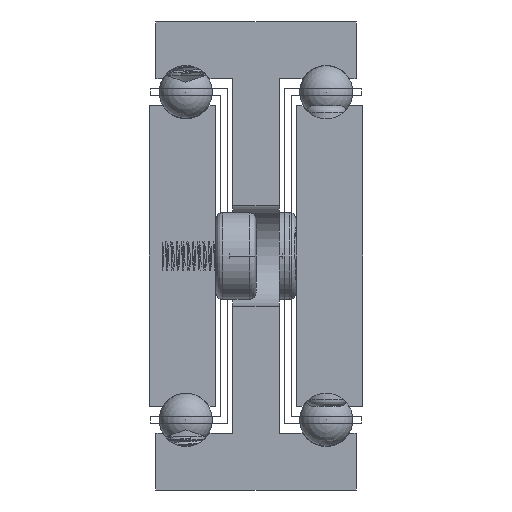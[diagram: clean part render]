
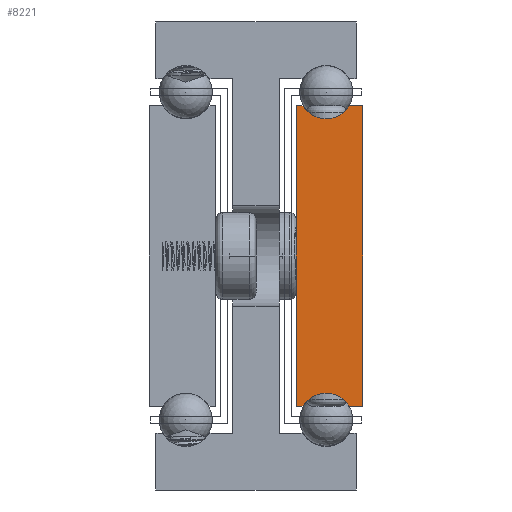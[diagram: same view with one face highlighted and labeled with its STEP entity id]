
A CAD part, front view. The second image highlights one B-rep face of the part: STEP entity #8221.
In plain terms, the highlighted planar face has unit normal (0, -1, 0).
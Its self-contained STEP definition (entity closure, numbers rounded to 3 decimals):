
#686=CIRCLE('',#8780,4.);
#688=CIRCLE('',#8786,4.);
#1057=FACE_OUTER_BOUND('',#1553,.T.);
#1553=EDGE_LOOP('',(#6448,#6449,#6450,#6451,#6452,#6453,#6454,#6455));
#2204=LINE('',#24742,#3076);
#2208=LINE('',#24750,#3080);
#2211=LINE('',#24756,#3083);
#2215=LINE('',#24768,#3087);
#2218=LINE('',#24774,#3090);
#2221=LINE('',#24780,#3093);
#3076=VECTOR('',#9798,1.);
#3080=VECTOR('',#9804,1.);
#3083=VECTOR('',#9809,1.);
#3087=VECTOR('',#9821,1.);
#3090=VECTOR('',#9826,1.);
#3093=VECTOR('',#9831,1.);
#3964=VERTEX_POINT('',#24740);
#3965=VERTEX_POINT('',#24741);
#3968=VERTEX_POINT('',#24749);
#3970=VERTEX_POINT('',#24755);
#3972=VERTEX_POINT('',#24761);
#3974=VERTEX_POINT('',#24767);
#3976=VERTEX_POINT('',#24773);
#3978=VERTEX_POINT('',#24779);
#4962=EDGE_CURVE('',#3964,#3965,#2204,.T.);
#4966=EDGE_CURVE('',#3968,#3964,#2208,.T.);
#4969=EDGE_CURVE('',#3970,#3968,#2211,.T.);
#4972=EDGE_CURVE('',#3972,#3970,#686,.T.);
#4975=EDGE_CURVE('',#3974,#3972,#2215,.T.);
#4978=EDGE_CURVE('',#3976,#3974,#2218,.T.);
#4981=EDGE_CURVE('',#3978,#3976,#2221,.T.);
#4984=EDGE_CURVE('',#3965,#3978,#688,.T.);
#6448=ORIENTED_EDGE('',*,*,#4984,.F.);
#6449=ORIENTED_EDGE('',*,*,#4962,.F.);
#6450=ORIENTED_EDGE('',*,*,#4966,.F.);
#6451=ORIENTED_EDGE('',*,*,#4969,.F.);
#6452=ORIENTED_EDGE('',*,*,#4972,.F.);
#6453=ORIENTED_EDGE('',*,*,#4975,.F.);
#6454=ORIENTED_EDGE('',*,*,#4978,.F.);
#6455=ORIENTED_EDGE('',*,*,#4981,.F.);
#7859=PLANE('',#8789);
#8221=ADVANCED_FACE('',(#1057),#7859,.F.);
#8780=AXIS2_PLACEMENT_3D('',#24762,#9814,#9815);
#8786=AXIS2_PLACEMENT_3D('',#24785,#9836,#9837);
#8789=AXIS2_PLACEMENT_3D('',#24788,#9842,#9843);
#9798=DIRECTION('',(1.,0.,0.));
#9804=DIRECTION('',(0.,0.,1.));
#9809=DIRECTION('',(-1.,0.,0.));
#9814=DIRECTION('center_axis',(0.,-1.,0.));
#9815=DIRECTION('ref_axis',(0.866,0.,0.5));
#9821=DIRECTION('',(-1.,0.,0.));
#9826=DIRECTION('',(0.,0.,-1.));
#9831=DIRECTION('',(1.,0.,0.));
#9836=DIRECTION('center_axis',(0.,-1.,0.));
#9837=DIRECTION('ref_axis',(-0.866,0.,-0.5));
#9842=DIRECTION('center_axis',(0.,1.,0.));
#9843=DIRECTION('ref_axis',(1.,0.,0.));
#24740=CARTESIAN_POINT('',(-1194.326,-907.247,422.5));
#24741=CARTESIAN_POINT('',(-1193.29,-907.247,422.5));
#24742=CARTESIAN_POINT('',(-1194.326,-907.247,422.5));
#24749=CARTESIAN_POINT('',(-1194.326,-907.247,377.5));
#24750=CARTESIAN_POINT('',(-1194.326,-907.247,377.5));
#24755=CARTESIAN_POINT('',(-1193.29,-907.247,377.5));
#24756=CARTESIAN_POINT('',(-1193.29,-907.247,377.5));
#24761=CARTESIAN_POINT('',(-1186.362,-907.247,377.5));
#24762=CARTESIAN_POINT('Origin',(-1189.826,-907.247,375.5));
#24767=CARTESIAN_POINT('',(-1184.326,-907.247,377.5));
#24768=CARTESIAN_POINT('',(-1184.326,-907.247,377.5));
#24773=CARTESIAN_POINT('',(-1184.326,-907.247,422.5));
#24774=CARTESIAN_POINT('',(-1184.326,-907.247,422.5));
#24779=CARTESIAN_POINT('',(-1186.362,-907.247,422.5));
#24780=CARTESIAN_POINT('',(-1186.362,-907.247,422.5));
#24785=CARTESIAN_POINT('Origin',(-1189.826,-907.247,424.5));
#24788=CARTESIAN_POINT('Origin',(-1189.32,-907.247,400.));
